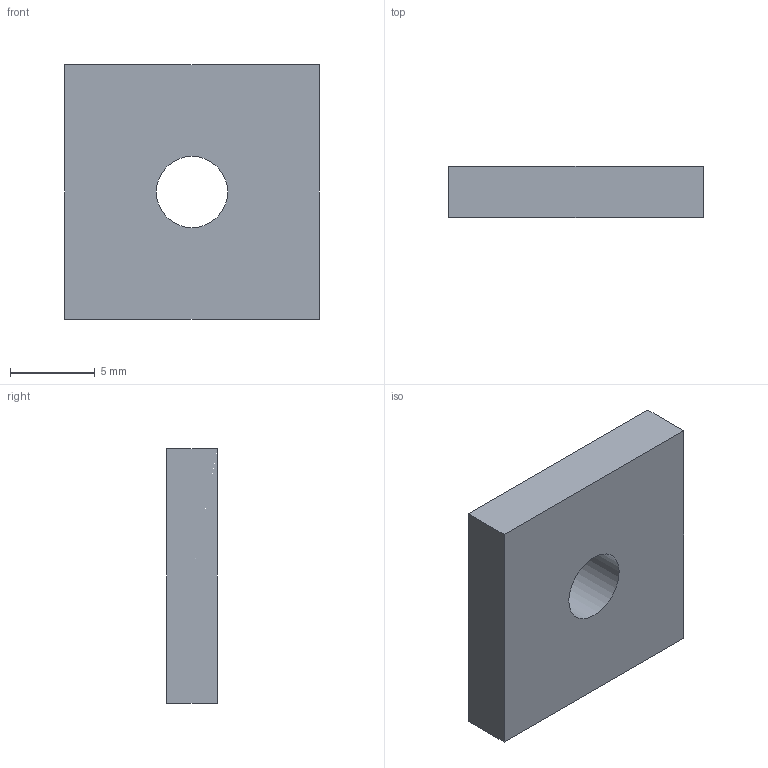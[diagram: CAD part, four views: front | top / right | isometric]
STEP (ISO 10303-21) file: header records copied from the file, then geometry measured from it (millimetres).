
FILE_DESCRIPTION(/* description */ ('Unknown'),/* implementation_level */ '2;1');
FILE_NAME(/* name */ 'BSN08M5',/* time_stamp */ '2018-11-12T16:51:57+00:00',/* author */ ('Unknown'),/* organization */ ('Unknown'),/* preprocessor_version */ 'ST-DEVELOPER v16.7',/* originating_system */ 'DEX',/* authorisation */ $);
FILE_SCHEMA (('AUTOMOTIVE_DESIGN {1 0 10303 214 3 1 1}'));
Length unit declared in the file: millimetre
Products named in the file (1): BSN08M5
Bounding box: 15 x 3 x 15 mm (x, y, z)
Volume: 633.4 mm3; surface area: 641.9 mm2
Topology: 1 solids, 1 shells, 7 faces, 15 edges, 10 vertices
Faces by surface type: plane 6, cylinder 1
Full cylindrical faces by diameter (mm): 4.2 x1
Entity records: 220 total; most frequent: DIRECTION 32, CARTESIAN_POINT 32, ORIENTED_EDGE 28, EDGE_CURVE 14, LINE 12, VECTOR 12, VERTEX_POINT 10, EDGE_LOOP 10
